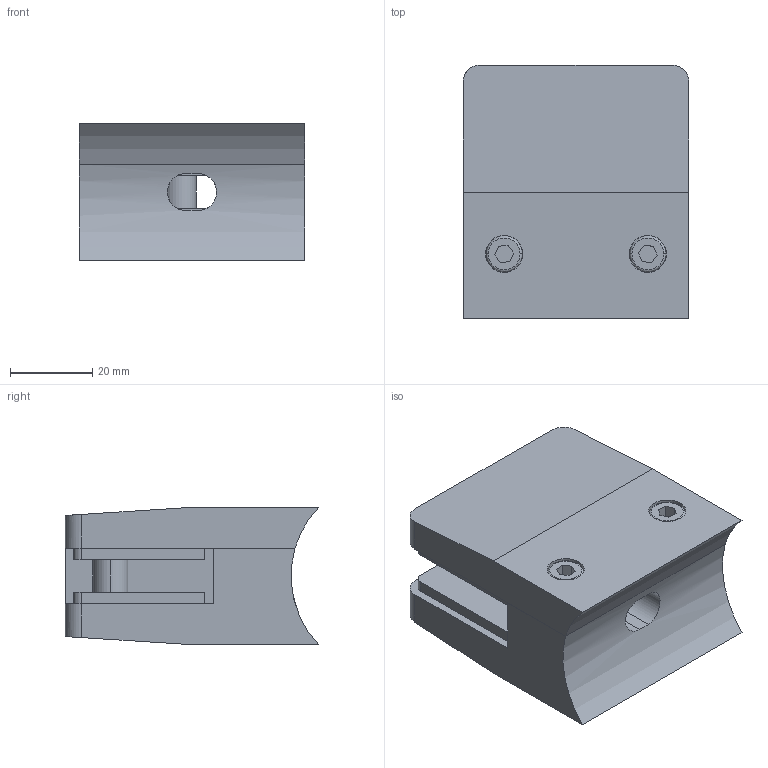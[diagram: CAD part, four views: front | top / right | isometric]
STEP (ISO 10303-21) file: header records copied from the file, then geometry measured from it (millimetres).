
FILE_DESCRIPTION (( 'STEP AP203' ), '1' );
FILE_NAME ('3D_GG4522_48.3x8_188753720.STEP', '2024-11-01T08:31:50', ( '' ), ( '' ), 'SwSTEP 2.0', 'SolidWorks 2023', '' );
FILE_SCHEMA (( 'CONFIG_CONTROL_DESIGN' ));
Length unit declared in the file: millimetre
Products named in the file (1): 3D_GG4522_48.3x8_188753720
Bounding box: 55 x 61.75 x 33.5 mm (x, y, z)
Volume: 84349.9 mm3; surface area: 30177.7 mm2
Topology: 7 solids, 7 shells, 115 faces, 259 edges, 170 vertices
Faces by surface type: plane 59, cylinder 48, torus 4, cone 4
Entity records: 3375 total; most frequent: CARTESIAN_POINT 624, DIRECTION 584, ORIENTED_EDGE 518, EDGE_CURVE 259, AXIS2_PLACEMENT_3D 216, VERTEX_POINT 170, VECTOR 152, LINE 152
